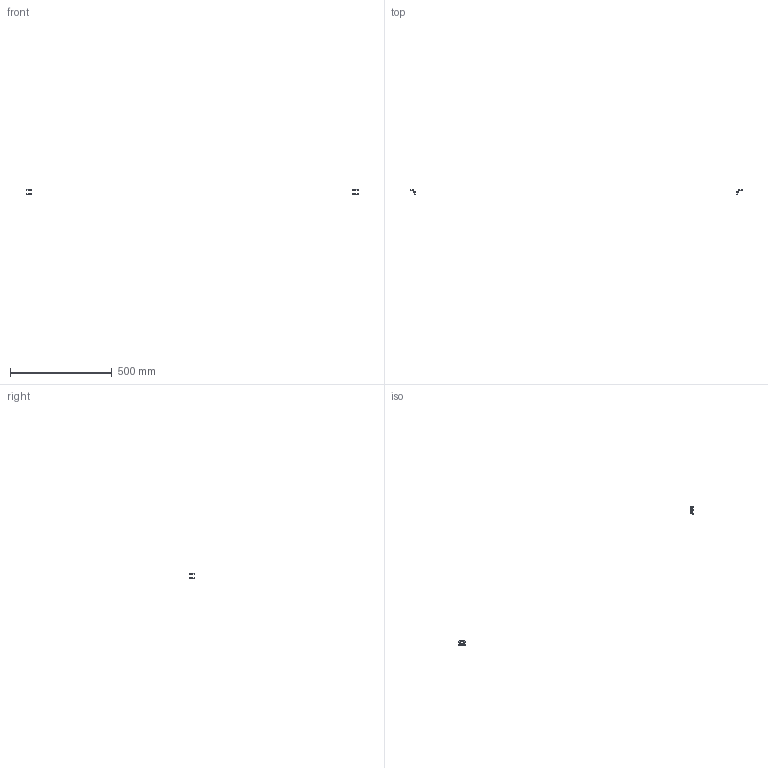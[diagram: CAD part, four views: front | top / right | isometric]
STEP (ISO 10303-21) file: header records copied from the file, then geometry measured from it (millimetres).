
FILE_DESCRIPTION(/* description */ (''),/* implementation_level */ '2;1');
FILE_NAME(/* name */ '3.frame-top#3.5#CB5-10',/* time_stamp */ '2014-12-01T20:12:15+01:00',/* author */ (''),/* organization */ (''),/* preprocessor_version */ 'ST-DEVELOPER v14',/* originating_system */ '',/* authorisation */ '');
FILE_SCHEMA (('AUTOMOTIVE_DESIGN'));
Length unit declared in the file: millimetre
Products named in the file (2): Document; screw DIN912-like, M5x10
Assembly tree (4 placements, depth 2):
  Document
    screw DIN912-like, M5x10  x4
Bounding box: 1631 x 27.74 x 28.5 mm (x, y, z)
Volume: 3506.7 mm3; surface area: 3410.4 mm2
Topology: 8 solids, 8 shells, 200 faces, 448 edges, 264 vertices
Faces by surface type: plane 120, bspline 80
Entity records: 6853 total; most frequent: CARTESIAN_POINT 3147, B_SPLINE_CURVE_WITH_KNOTS 630, ORIENTED_EDGE 540, PCURVE 540, DEFINITIONAL_REPRESENTATION 540, SURFACE_CURVE 270, EDGE_CURVE 270, VERTEX_POINT 165
